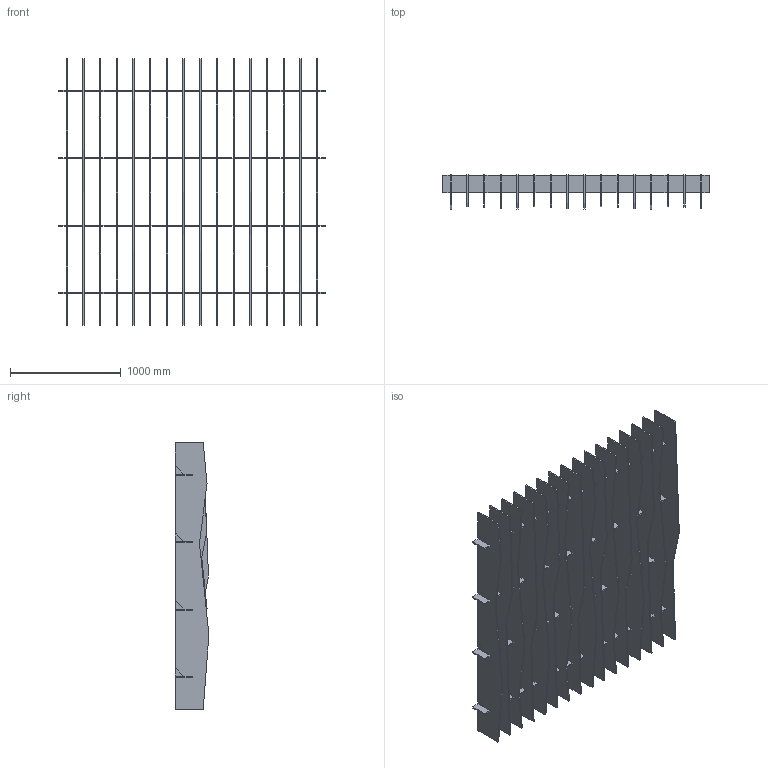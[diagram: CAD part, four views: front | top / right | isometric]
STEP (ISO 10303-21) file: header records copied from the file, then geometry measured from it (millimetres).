
FILE_DESCRIPTION(/* description */ (''),/* implementation_level */ '2;1');
FILE_NAME(/* name */ 'Y:\Design and Engineering\MaterialLogiq\CAD ASSETS\MASTER\BAFFLE\WEB ASSETS\PET BAFFLE_16FIN_8x8_10_PEAKS.stp',/* time_stamp */ '2023-11-16T12:01:31-06:00',/* author */ ('Grant Baker'),/* organization */ (''),/* preprocessor_version */ 'ST-DEVELOPER v19',/* originating_system */ 'Autodesk Inventor 2023',/* authorisation */ '');
FILE_SCHEMA (('AUTOMOTIVE_DESIGN { 1 0 10303 214 3 1 1 }'));
Length unit declared in the file: inch
Products named in the file (6): PET BAFFLE_PARAMETRIC_11.02.2023; PET BAFFLE_BEAM; PET BAFFLE_FIN_96in_PEAKS-1; PET BAFFLE_FIN_96in_PEAKS-3; PET BAFFLE_FIN_96in_PEAKS-2; PET BAFFLE_FIN_96in_PEAKS-4
Assembly tree (20 placements, depth 2):
  PET BAFFLE_PARAMETRIC_11.02.2023
    PET BAFFLE_BEAM  x4
    PET BAFFLE_FIN_96in_PEAKS-1  x4
    PET BAFFLE_FIN_96in_PEAKS-3  x4
    PET BAFFLE_FIN_96in_PEAKS-2  x4
    PET BAFFLE_FIN_96in_PEAKS-4  x4
Bounding box: 2413 x 304.8 x 2413 mm (x, y, z)
Volume: 136727893.8 mm3; surface area: 24069338.5 mm2
Topology: 84 solids, 84 shells, 1568 faces, 4200 edges, 2800 vertices
Faces by surface type: plane 1568
Entity records: 12301 total; most frequent: CARTESIAN_POINT 2168, ORIENTED_EDGE 2100, DIRECTION 1886, LINE 1050, VECTOR 1050, EDGE_CURVE 1050, VERTEX_POINT 700, AXIS2_PLACEMENT_3D 418
